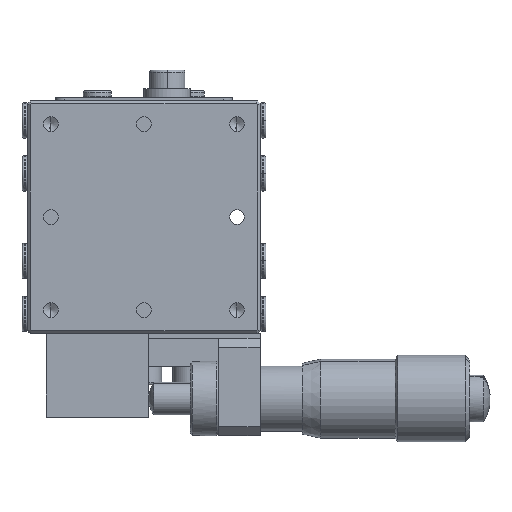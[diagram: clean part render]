
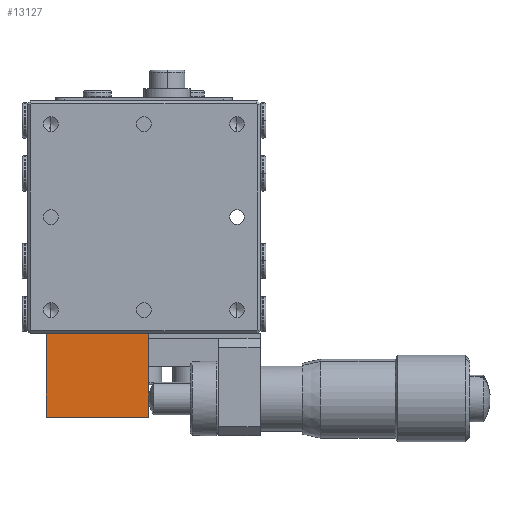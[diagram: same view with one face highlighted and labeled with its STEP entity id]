
A CAD part, top view. The second image highlights one B-rep face of the part: STEP entity #13127.
In plain terms, the highlighted planar face has unit normal (0, 0, 1) as drawn and (0, 1, 0) by its records, which use the part's own axes.
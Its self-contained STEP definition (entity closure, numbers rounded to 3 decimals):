
#570 = DIRECTION ( 'NONE',  ( 1., 0., 0. ) ) ;
#843 = CARTESIAN_POINT ( 'NONE',  ( 14.989, 32.621, -17. ) ) ;
#1034 = DIRECTION ( 'NONE',  ( 0., 0., -1. ) ) ;
#1059 = CARTESIAN_POINT ( 'NONE',  ( 15.489, 32.621, -12.5 ) ) ;
#1061 = CARTESIAN_POINT ( 'NONE',  ( 25.989, 32.621, -17. ) ) ;
#1068 = DIRECTION ( 'NONE',  ( 0., 0., -1. ) ) ;
#5111 = CARTESIAN_POINT ( 'NONE',  ( 25.989, 32.621, -21.5 ) ) ;
#6879 = EDGE_LOOP ( 'NONE', ( #12982, #12985, #12979, #12976 ) ) ;
#7338 = AXIS2_PLACEMENT_3D ( 'NONE', #8578, #8601, #8604 ) ;
#8578 = CARTESIAN_POINT ( 'NONE',  ( 14.989, 32.621, -12.5 ) ) ;
#8590 = PLANE ( 'NONE',  #7338 ) ;
#8601 = DIRECTION ( 'NONE',  ( 0., -1., 0. ) ) ;
#8604 = DIRECTION ( 'NONE',  ( 0., 0., -1. ) ) ;
#8886 = CARTESIAN_POINT ( 'NONE',  ( 14.989, 32.621, -21.5 ) ) ;
#8918 = CARTESIAN_POINT ( 'NONE',  ( 25.989, 32.621, -12.5 ) ) ;
#8988 = CARTESIAN_POINT ( 'NONE',  ( 14.989, 32.621, -12.5 ) ) ;
#9988 = FACE_OUTER_BOUND ( 'NONE', #6879, .T. ) ;
#10608 = DIRECTION ( 'NONE',  ( 1., 0., 0. ) ) ;
#10613 = CARTESIAN_POINT ( 'NONE',  ( 20.489, 32.621, -21.5 ) ) ;
#12976 = ORIENTED_EDGE ( 'NONE', *, *, #14823, .T. ) ;
#12979 = ORIENTED_EDGE ( 'NONE', *, *, #14822, .T. ) ;
#12982 = ORIENTED_EDGE ( 'NONE', *, *, #14603, .F. ) ;
#12985 = ORIENTED_EDGE ( 'NONE', *, *, #14819, .F. ) ;
#13127 = ADVANCED_FACE ( 'NONE', ( #9988 ), #8590, .F. ) ;
#14603 = EDGE_CURVE ( 'NONE', #21321, #20976, #15718, .T. ) ;
#14819 = EDGE_CURVE ( 'NONE', #21226, #21321, #15961, .T. ) ;
#14822 = EDGE_CURVE ( 'NONE', #21226, #21290, #15958, .T. ) ;
#14823 = EDGE_CURVE ( 'NONE', #21290, #20976, #15967, .T. ) ;
#15718 = LINE ( 'NONE', #10613, #15726 ) ;
#15726 = VECTOR ( 'NONE', #10608, 1000. ) ;
#15958 = LINE ( 'NONE', #1059, #15969 ) ;
#15961 = LINE ( 'NONE', #843, #15964 ) ;
#15964 = VECTOR ( 'NONE', #1034, 1000. ) ;
#15967 = LINE ( 'NONE', #1061, #15971 ) ;
#15969 = VECTOR ( 'NONE', #570, 1000. ) ;
#15971 = VECTOR ( 'NONE', #1068, 1000. ) ;
#20976 = VERTEX_POINT ( 'NONE', #5111 ) ;
#21226 = VERTEX_POINT ( 'NONE', #8988 ) ;
#21290 = VERTEX_POINT ( 'NONE', #8918 ) ;
#21321 = VERTEX_POINT ( 'NONE', #8886 ) ;
